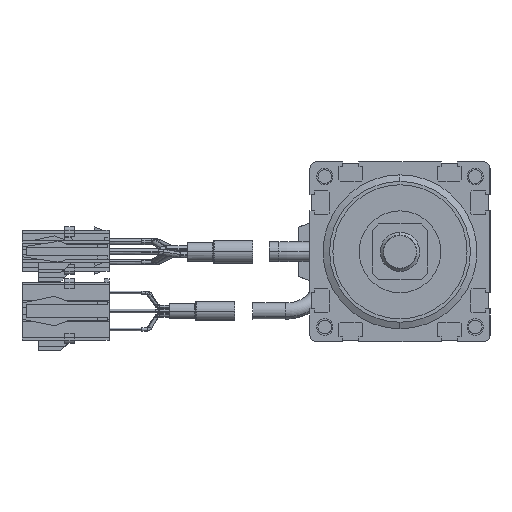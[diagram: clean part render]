
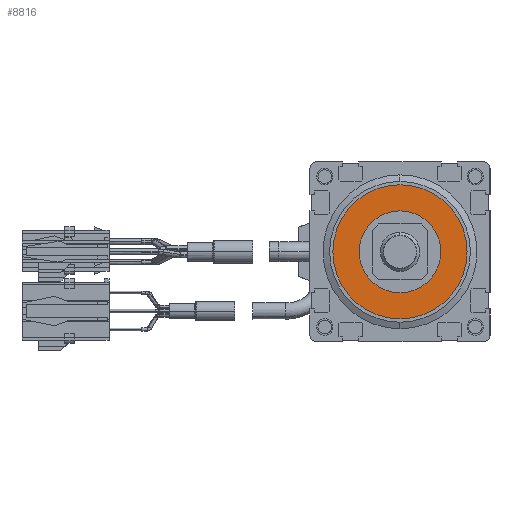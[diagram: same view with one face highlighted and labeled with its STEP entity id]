
A CAD part, left-side view. The second image highlights one B-rep face of the part: STEP entity #8816.
In plain terms, the highlighted planar face has unit normal (-1, 0, 0).
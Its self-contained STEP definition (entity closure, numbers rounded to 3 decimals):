
#2322=CARTESIAN_POINT('',(-291.,0.,0.));
#2323=DIRECTION('',(1.,0.,0.));
#2324=DIRECTION('',(0.,1.,0.));
#2325=AXIS2_PLACEMENT_3D('',#2322,#2323,#2324);
#2327=CARTESIAN_POINT('',(-291.,0.,0.));
#2328=DIRECTION('',(1.,0.,0.));
#2329=DIRECTION('',(0.,-1.,0.));
#2330=AXIS2_PLACEMENT_3D('',#2327,#2328,#2329);
#2332=CARTESIAN_POINT('',(-291.,0.,0.));
#2333=DIRECTION('',(-1.,0.,0.));
#2334=DIRECTION('',(0.,0.,1.));
#2335=AXIS2_PLACEMENT_3D('',#2332,#2333,#2334);
#2337=CARTESIAN_POINT('',(-291.,0.,0.));
#2338=DIRECTION('',(-1.,0.,0.));
#2339=DIRECTION('',(0.,0.,-1.));
#2340=AXIS2_PLACEMENT_3D('',#2337,#2338,#2339);
#4281=CARTESIAN_POINT('',(-291.,20.5,0.));
#4282=VERTEX_POINT('',#4281);
#4283=CARTESIAN_POINT('',(-291.,-20.5,0.));
#4284=VERTEX_POINT('',#4283);
#5447=CARTESIAN_POINT('',(-291.,0.,12.5));
#5448=CARTESIAN_POINT('',(-291.,0.,-12.5));
#5449=VERTEX_POINT('',#5447);
#5450=VERTEX_POINT('',#5448);
#8801=CARTESIAN_POINT('',(-291.,0.,0.));
#8802=DIRECTION('',(1.,0.,0.));
#8803=DIRECTION('',(0.,1.,0.));
#8804=AXIS2_PLACEMENT_3D('',#8801,#8802,#8803);
#8805=PLANE('',#8804);
#8806=ORIENTED_EDGE('',*,*,#8781,.T.);
#8807=ORIENTED_EDGE('',*,*,#8795,.T.);
#8808=EDGE_LOOP('',(#8806,#8807));
#8809=FACE_OUTER_BOUND('',#8808,.F.);
#8811=ORIENTED_EDGE('',*,*,#8810,.T.);
#8813=ORIENTED_EDGE('',*,*,#8812,.T.);
#8814=EDGE_LOOP('',(#8811,#8813));
#8815=FACE_BOUND('',#8814,.F.);
#8816=ADVANCED_FACE('',(#8809,#8815),#8805,.F.);
#2326=CIRCLE('',#2325,20.5);
#2331=CIRCLE('',#2330,20.5);
#2336=CIRCLE('',#2335,12.5);
#2341=CIRCLE('',#2340,12.5);
#8781=EDGE_CURVE('',#4282,#4284,#2326,.T.);
#8795=EDGE_CURVE('',#4284,#4282,#2331,.T.);
#8810=EDGE_CURVE('',#5449,#5450,#2336,.T.);
#8812=EDGE_CURVE('',#5450,#5449,#2341,.T.);
